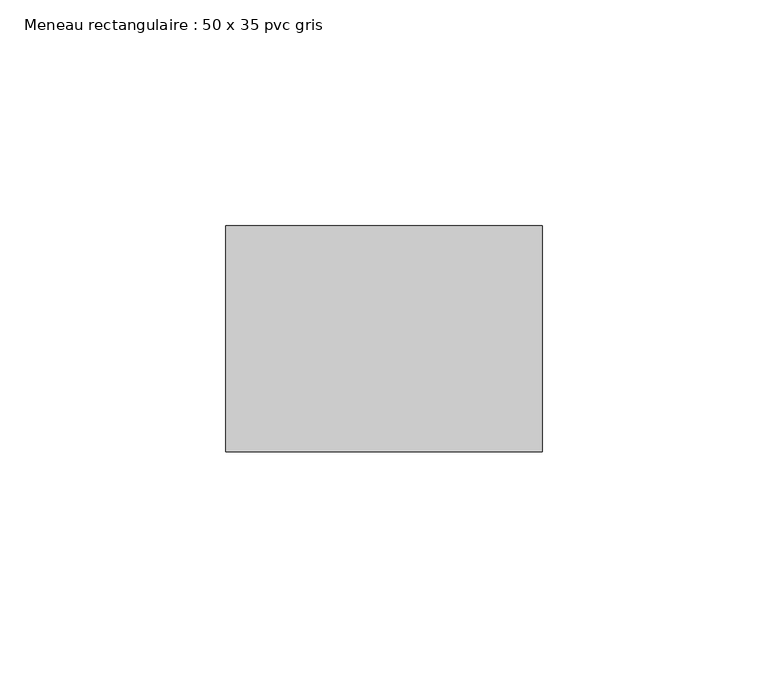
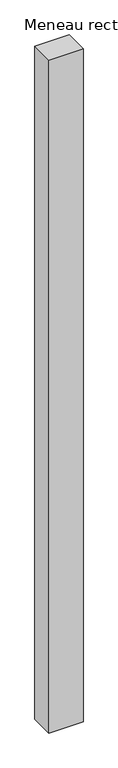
"""IFC4 building model written with IfcOpenShell, lengths in millimetres: member geometry, Meneau rectangulaire : 50 x 35 pvc gris."""

from ifc_helpers import new_model, si_unit, frame, origin, place, context, project, spatial, polyline, outline, extrude, source, transform, mapped, element, save


def meneau_rectangulaire_50_x_35_pvc_gris_ffcb3b58(model_context):
    return source(origin(), model_context, "Body", "SweptSolid", [
        extrude(outline(polyline([(0.0, 0.0), (0.0, -50.0), (-70.0, -50.0), (-70.0, 0.0), (0.0, 0.0)])), frame((0.0, 0.0, -1460.0), z_axis=(0.0, 0.0, 1.0), x_axis=(1.0, 0.0, 0.0)), (0.0, 0.0, 1.0), 1460.0),
    ])


if __name__ == "__main__":
    model = new_model("IFC4")
    model_context = context("Model", 3, world=origin())
    ifc_project = project(units=[si_unit("LENGTHUNIT", "METRE", prefix="MILLI")], contexts=[model_context])
    site = spatial("IfcSite", under=ifc_project)
    building = spatial("IfcBuilding", under=site)
    placement = place(None, origin())
    meneau_rectangulaire_50_x_35_pvc_gris_shape = meneau_rectangulaire_50_x_35_pvc_gris_ffcb3b58(model_context)
    element("IfcMember", 1, ObjectType="Meneau rectangulaire : 50 x 35 pvc gris", at=placement, inside=building, context=model_context, shape_type="MappedRepresentation", body=[
        mapped(meneau_rectangulaire_50_x_35_pvc_gris_shape, transform((0.0, 0.0, 0.0), x_axis=(1.0, 0.0, 0.0), y_axis=(0.0, 1.0, 0.0), z_axis=(0.0, 0.0, 1.0))),
    ])
    save(model, "model.ifc")
